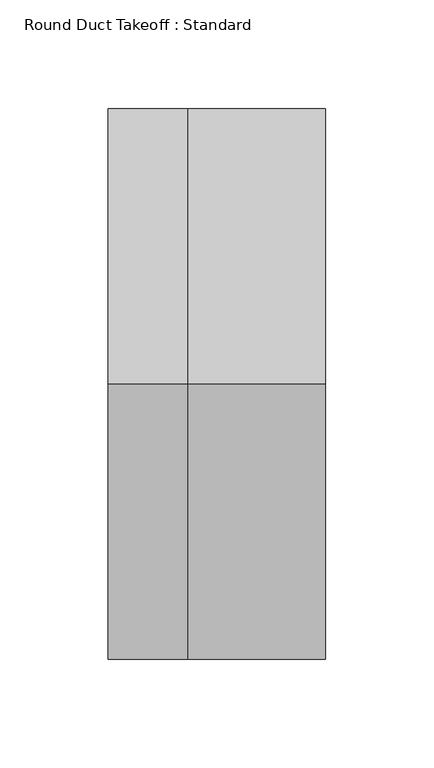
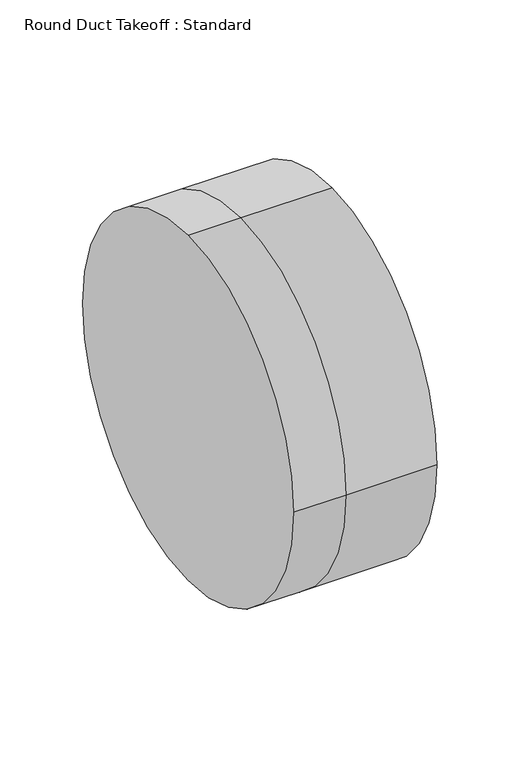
"""IFC4 building model written with IfcOpenShell, lengths in millimetres: duct fitting geometry, Round Duct Takeoff : Standard."""

from ifc_helpers import new_model, si_unit, frame, origin, place, context, project, spatial, circle_curve, source, transform, mapped, element, save
from ifc_brep_helpers import plane_surface, cylinder_surface, advanced_brep


def round_duct_takeoff_standard_e5792325(model_context):
    return source(origin(), model_context, "Body", "AdvancedBrep", [
        advanced_brep(
        [(-36.6278421, 0.0, 127.0), (-36.6278421, 127.0, 0.0), (-36.6278421, 0.0, -127.0), (-36.6278421, -127.0, 0.0), (0.0, 0.0, 127.0), (0.0, 127.0, 0.0), (0.0, 0.0, -127.0), (0.0, -127.0, 0.0), (63.5, 0.0, 127.0), (63.5, -127.0, 0.0), (63.5, 0.0, -127.0), (63.5, 127.0, 0.0)],
        [
            (0, 1, circle_curve(frame((-36.6278421, 0.0, 0.0), z_axis=(-1.0, 0.0, 0.0), x_axis=(0.0, 1.0, 0.0)), 127.0)),
            (1, 2, circle_curve(frame((-36.6278421, 0.0, 0.0), z_axis=(-1.0, 0.0, 0.0), x_axis=(0.0, 1.0, 0.0)), 127.0)),
            (2, 3, circle_curve(frame((-36.6278421, 0.0, 0.0), z_axis=(-1.0, 0.0, 0.0), x_axis=(0.0, 1.0, 0.0)), 127.0)),
            (3, 0, circle_curve(frame((-36.6278421, 0.0, 0.0), z_axis=(-1.0, 0.0, 0.0), x_axis=(0.0, 1.0, 0.0)), 127.0)),
            (0, 4),
            (4, 5, circle_curve(frame((0.0, 0.0, 0.0), z_axis=(-1.0, 0.0, 0.0), x_axis=(0.0, 1.0, 0.0)), 127.0)),
            (5, 1),
            (5, 6, circle_curve(frame((0.0, 0.0, 0.0), z_axis=(-1.0, 0.0, 0.0), x_axis=(0.0, 1.0, 0.0)), 127.0)),
            (6, 2),
            (6, 7, circle_curve(frame((0.0, 0.0, 0.0), z_axis=(-1.0, 0.0, 0.0), x_axis=(0.0, 1.0, 0.0)), 127.0)),
            (7, 3),
            (7, 4, circle_curve(frame((0.0, 0.0, 0.0), z_axis=(-1.0, 0.0, 0.0), x_axis=(0.0, 1.0, 0.0)), 127.0)),
            (8, 9, circle_curve(frame((63.5, 0.0, 0.0), z_axis=(1.0, 0.0, 0.0), x_axis=(0.0, 1.0, 0.0)), 127.0)),
            (9, 10, circle_curve(frame((63.5, 0.0, 0.0), z_axis=(1.0, 0.0, 0.0), x_axis=(0.0, 1.0, 0.0)), 127.0)),
            (10, 11, circle_curve(frame((63.5, 0.0, 0.0), z_axis=(1.0, 0.0, 0.0), x_axis=(0.0, 1.0, 0.0)), 127.0)),
            (11, 8, circle_curve(frame((63.5, 0.0, 0.0), z_axis=(1.0, 0.0, 0.0), x_axis=(0.0, 1.0, 0.0)), 127.0)),
            (11, 5),
            (4, 8),
            (10, 6),
            (9, 7),
        ],
        [
            plane_surface(frame((-36.6278421, 0.0, 0.0), z_axis=(-1.0, 0.0, 0.0), x_axis=(0.0, 0.0, 1.0))),
            cylinder_surface(frame((-36.6278421, 0.0, 0.0), z_axis=(-1.0, 0.0, 0.0), x_axis=(0.0, 1.0, 0.0)), 127.0),
            plane_surface(frame((63.5, 0.0, 0.0), z_axis=(1.0, 0.0, 0.0), x_axis=(0.0, 0.0, 1.0))),
            cylinder_surface(frame((0.0, 0.0, 0.0), z_axis=(-1.0, 0.0, 0.0), x_axis=(0.0, 1.0, 0.0)), 127.0),
        ],
        [
            (0, [[1, 2, 3, 4]]),
            (1, [[-1, 5, 6, 7]]),
            (1, [[-2, -7, 8, 9]]),
            (1, [[-3, -9, 10, 11]]),
            (1, [[-4, -11, 12, -5]]),
            (2, [[13, 14, 15, 16]]),
            (3, [[-16, 17, -6, 18]]),
            (3, [[-15, 19, -8, -17]]),
            (3, [[-14, 20, -10, -19]]),
            (3, [[-13, -18, -12, -20]]),
        ],
    ),
        advanced_brep(
        [(63.5, 0.0, 127.0), (63.5, -127.0, 0.0), (63.5, 0.0, -127.0), (63.5, 127.0, 0.0), (0.0, 127.0, 0.0), (0.0, 0.0, 127.0), (0.0, 0.0, -127.0), (0.0, -127.0, 0.0), (-36.6278421, 0.0, 127.0), (-36.6278421, 127.0, 0.0), (-36.6278421, 0.0, -127.0), (-36.6278421, -127.0, 0.0)],
        [
            (0, 1, circle_curve(frame((63.5, 0.0, 0.0), z_axis=(1.0, 0.0, 0.0), x_axis=(0.0, 1.0, 0.0)), 127.0)),
            (1, 2, circle_curve(frame((63.5, 0.0, 0.0), z_axis=(1.0, 0.0, 0.0), x_axis=(0.0, 1.0, 0.0)), 127.0)),
            (2, 3, circle_curve(frame((63.5, 0.0, 0.0), z_axis=(1.0, 0.0, 0.0), x_axis=(0.0, 1.0, 0.0)), 127.0)),
            (3, 0, circle_curve(frame((63.5, 0.0, 0.0), z_axis=(1.0, 0.0, 0.0), x_axis=(0.0, 1.0, 0.0)), 127.0)),
            (3, 4),
            (4, 5, circle_curve(frame((0.0, 0.0, 0.0), z_axis=(1.0, 0.0, 0.0), x_axis=(0.0, 1.0, 0.0)), 127.0)),
            (5, 0),
            (2, 6),
            (6, 4, circle_curve(frame((0.0, 0.0, 0.0), z_axis=(1.0, 0.0, 0.0), x_axis=(0.0, 1.0, 0.0)), 127.0)),
            (1, 7),
            (7, 6, circle_curve(frame((0.0, 0.0, 0.0), z_axis=(1.0, 0.0, 0.0), x_axis=(0.0, 1.0, 0.0)), 127.0)),
            (5, 7, circle_curve(frame((0.0, 0.0, 0.0), z_axis=(1.0, 0.0, 0.0), x_axis=(0.0, 1.0, 0.0)), 127.0)),
            (8, 9, circle_curve(frame((-36.6278421, 0.0, 0.0), z_axis=(-1.0, 0.0, 0.0), x_axis=(0.0, 1.0, 0.0)), 127.0)),
            (9, 10, circle_curve(frame((-36.6278421, 0.0, 0.0), z_axis=(-1.0, 0.0, 0.0), x_axis=(0.0, 1.0, 0.0)), 127.0)),
            (10, 11, circle_curve(frame((-36.6278421, 0.0, 0.0), z_axis=(-1.0, 0.0, 0.0), x_axis=(0.0, 1.0, 0.0)), 127.0)),
            (11, 8, circle_curve(frame((-36.6278421, 0.0, 0.0), z_axis=(-1.0, 0.0, 0.0), x_axis=(0.0, 1.0, 0.0)), 127.0)),
            (8, 5),
            (4, 9),
            (6, 10),
            (7, 11),
        ],
        [
            plane_surface(frame((63.5, 0.0, 0.0), z_axis=(1.0, 0.0, 0.0), x_axis=(0.0, 0.0, 1.0))),
            cylinder_surface(frame((0.0, 0.0, 0.0), z_axis=(-1.0, 0.0, 0.0), x_axis=(0.0, 1.0, 0.0)), 127.0),
            plane_surface(frame((-36.6278421, 0.0, 0.0), z_axis=(-1.0, 0.0, 0.0), x_axis=(0.0, 0.0, 1.0))),
            cylinder_surface(frame((-36.6278421, 0.0, 0.0), z_axis=(-1.0, 0.0, 0.0), x_axis=(0.0, 1.0, 0.0)), 127.0),
        ],
        [
            (0, [[1, 2, 3, 4]]),
            (1, [[-4, 5, 6, 7]]),
            (1, [[-3, 8, 9, -5]]),
            (1, [[-2, 10, 11, -8]]),
            (1, [[-1, -7, 12, -10]]),
            (2, [[13, 14, 15, 16]]),
            (3, [[-13, 17, -6, 18]]),
            (3, [[-14, -18, -9, 19]]),
            (3, [[-15, -19, -11, 20]]),
            (3, [[-16, -20, -12, -17]]),
        ],
    ),
        advanced_brep(
        [(-36.6278421, 0.0, 127.0), (-36.6278421, 127.0, 0.0), (-36.6278421, 0.0, -127.0), (-36.6278421, -127.0, 0.0), (0.0, 0.0, 127.0), (0.0, 127.0, 0.0), (0.0, 0.0, -127.0), (0.0, -127.0, 0.0), (63.5, 0.0, 127.0), (63.5, -127.0, 0.0), (63.5, 0.0, -127.0), (63.5, 127.0, 0.0)],
        [
            (0, 1, circle_curve(frame((-36.6278421, 0.0, 0.0), z_axis=(-1.0, 0.0, 0.0), x_axis=(0.0, 1.0, 0.0)), 127.0)),
            (1, 2, circle_curve(frame((-36.6278421, 0.0, 0.0), z_axis=(-1.0, 0.0, 0.0), x_axis=(0.0, 1.0, 0.0)), 127.0)),
            (2, 3, circle_curve(frame((-36.6278421, 0.0, 0.0), z_axis=(-1.0, 0.0, 0.0), x_axis=(0.0, 1.0, 0.0)), 127.0)),
            (3, 0, circle_curve(frame((-36.6278421, 0.0, 0.0), z_axis=(-1.0, 0.0, 0.0), x_axis=(0.0, 1.0, 0.0)), 127.0)),
            (0, 4),
            (4, 5, circle_curve(frame((0.0, 0.0, 0.0), z_axis=(-1.0, 0.0, 0.0), x_axis=(0.0, 1.0, 0.0)), 127.0)),
            (5, 1),
            (5, 6, circle_curve(frame((0.0, 0.0, 0.0), z_axis=(-1.0, 0.0, 0.0), x_axis=(0.0, 1.0, 0.0)), 127.0)),
            (6, 2),
            (6, 7, circle_curve(frame((0.0, 0.0, 0.0), z_axis=(-1.0, 0.0, 0.0), x_axis=(0.0, 1.0, 0.0)), 127.0)),
            (7, 3),
            (7, 4, circle_curve(frame((0.0, 0.0, 0.0), z_axis=(-1.0, 0.0, 0.0), x_axis=(0.0, 1.0, 0.0)), 127.0)),
            (8, 9, circle_curve(frame((63.5, 0.0, 0.0), z_axis=(1.0, 0.0, 0.0), x_axis=(0.0, 1.0, 0.0)), 127.0)),
            (9, 10, circle_curve(frame((63.5, 0.0, 0.0), z_axis=(1.0, 0.0, 0.0), x_axis=(0.0, 1.0, 0.0)), 127.0)),
            (10, 11, circle_curve(frame((63.5, 0.0, 0.0), z_axis=(1.0, 0.0, 0.0), x_axis=(0.0, 1.0, 0.0)), 127.0)),
            (11, 8, circle_curve(frame((63.5, 0.0, 0.0), z_axis=(1.0, 0.0, 0.0), x_axis=(0.0, 1.0, 0.0)), 127.0)),
            (11, 5),
            (4, 8),
            (10, 6),
            (9, 7),
        ],
        [
            plane_surface(frame((-36.6278421, 0.0, 0.0), z_axis=(-1.0, 0.0, 0.0), x_axis=(0.0, 0.0, 1.0))),
            cylinder_surface(frame((-36.6278421, 0.0, 0.0), z_axis=(-1.0, 0.0, 0.0), x_axis=(0.0, 1.0, 0.0)), 127.0),
            plane_surface(frame((63.5, 0.0, 0.0), z_axis=(1.0, 0.0, 0.0), x_axis=(0.0, 0.0, 1.0))),
            cylinder_surface(frame((0.0, 0.0, 0.0), z_axis=(-1.0, 0.0, 0.0), x_axis=(0.0, 1.0, 0.0)), 127.0),
        ],
        [
            (0, [[1, 2, 3, 4]]),
            (1, [[-1, 5, 6, 7]]),
            (1, [[-2, -7, 8, 9]]),
            (1, [[-3, -9, 10, 11]]),
            (1, [[-4, -11, 12, -5]]),
            (2, [[13, 14, 15, 16]]),
            (3, [[-16, 17, -6, 18]]),
            (3, [[-15, 19, -8, -17]]),
            (3, [[-14, 20, -10, -19]]),
            (3, [[-13, -18, -12, -20]]),
        ],
    ),
    ])


if __name__ == "__main__":
    model = new_model("IFC4")
    model_context = context("Model", 3, world=origin())
    ifc_project = project(units=[si_unit("LENGTHUNIT", "METRE", prefix="MILLI")], contexts=[model_context])
    site = spatial("IfcSite", under=ifc_project)
    building = spatial("IfcBuilding", under=site)
    placement = place(None, origin())
    round_duct_takeoff_standard_shape = round_duct_takeoff_standard_e5792325(model_context)
    element("IfcDuctFitting", 1, ObjectType="Round Duct Takeoff : Standard", at=placement, inside=building, context=model_context, shape_type="MappedRepresentation", body=[
        mapped(round_duct_takeoff_standard_shape, transform((0.0, 0.0, 0.0), x_axis=(1.0, 0.0, 0.0), y_axis=(0.0, 1.0, 0.0), z_axis=(0.0, 0.0, 1.0))),
    ])
    save(model, "model.ifc")
